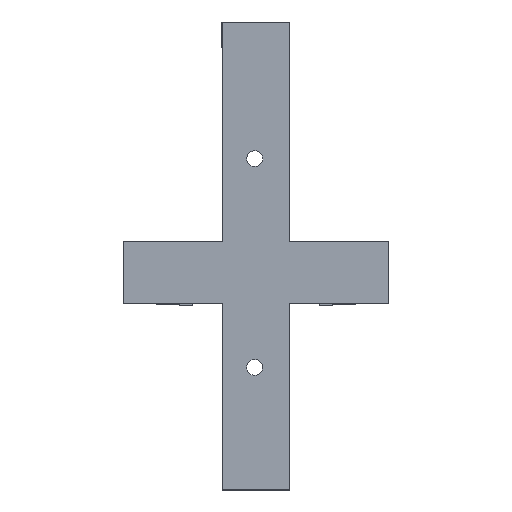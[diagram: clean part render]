
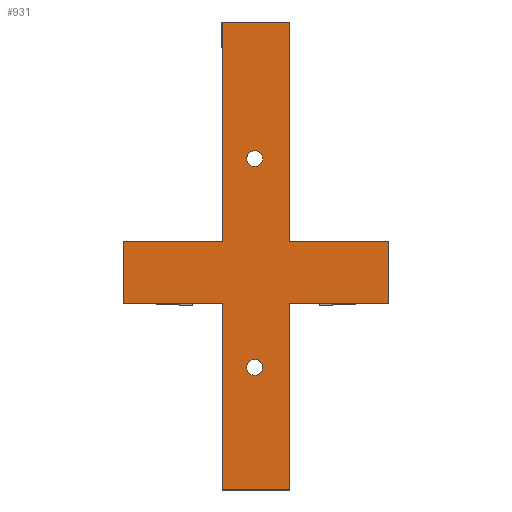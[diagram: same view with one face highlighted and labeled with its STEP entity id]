
A CAD part, top view. The second image highlights one B-rep face of the part: STEP entity #931.
In plain terms, the highlighted planar face has unit normal (0, 0, 1).
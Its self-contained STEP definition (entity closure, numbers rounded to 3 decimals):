
#39=FACE_BOUND('',#141,.T.);
#40=FACE_BOUND('',#142,.T.);
#84=FACE_OUTER_BOUND('',#140,.T.);
#140=EDGE_LOOP('',(#812,#813,#814,#815,#816,#817,#818,#819,#820,#821,#822,
#823));
#141=EDGE_LOOP('',(#824));
#142=EDGE_LOOP('',(#825));
#160=CIRCLE('',#980,3.175);
#162=CIRCLE('',#983,3.175);
#198=LINE('',#1384,#307);
#208=LINE('',#1402,#317);
#209=LINE('',#1404,#318);
#213=LINE('',#1411,#322);
#214=LINE('',#1414,#323);
#238=LINE('',#1462,#347);
#240=LINE('',#1468,#349);
#243=LINE('',#1472,#352);
#244=LINE('',#1475,#353);
#251=LINE('',#1488,#360);
#257=LINE('',#1501,#366);
#266=LINE('',#1518,#375);
#307=VECTOR('',#1132,10.);
#317=VECTOR('',#1144,10.);
#318=VECTOR('',#1147,10.);
#322=VECTOR('',#1153,10.);
#323=VECTOR('',#1156,10.);
#347=VECTOR('',#1194,10.);
#349=VECTOR('',#1198,10.);
#352=VECTOR('',#1203,10.);
#353=VECTOR('',#1206,10.);
#360=VECTOR('',#1215,10.);
#366=VECTOR('',#1229,10.);
#375=VECTOR('',#1250,10.);
#414=VERTEX_POINT('',#1363);
#416=VERTEX_POINT('',#1369);
#419=VERTEX_POINT('',#1380);
#421=VERTEX_POINT('',#1383);
#425=VERTEX_POINT('',#1393);
#428=VERTEX_POINT('',#1400);
#430=VERTEX_POINT('',#1409);
#431=VERTEX_POINT('',#1413);
#447=VERTEX_POINT('',#1457);
#448=VERTEX_POINT('',#1460);
#449=VERTEX_POINT('',#1464);
#451=VERTEX_POINT('',#1467);
#452=VERTEX_POINT('',#1474);
#457=VERTEX_POINT('',#1486);
#507=EDGE_CURVE('',#414,#414,#160,.T.);
#510=EDGE_CURVE('',#416,#416,#162,.T.);
#516=EDGE_CURVE('',#419,#421,#198,.T.);
#526=EDGE_CURVE('',#425,#428,#208,.T.);
#527=EDGE_CURVE('',#428,#421,#209,.T.);
#531=EDGE_CURVE('',#419,#430,#213,.T.);
#532=EDGE_CURVE('',#431,#425,#214,.T.);
#556=EDGE_CURVE('',#447,#448,#238,.T.);
#558=EDGE_CURVE('',#449,#451,#240,.T.);
#561=EDGE_CURVE('',#451,#448,#243,.T.);
#562=EDGE_CURVE('',#452,#447,#244,.T.);
#569=EDGE_CURVE('',#449,#457,#251,.T.);
#576=EDGE_CURVE('',#457,#431,#257,.T.);
#585=EDGE_CURVE('',#430,#452,#266,.T.);
#812=ORIENTED_EDGE('',*,*,#576,.T.);
#813=ORIENTED_EDGE('',*,*,#532,.T.);
#814=ORIENTED_EDGE('',*,*,#526,.T.);
#815=ORIENTED_EDGE('',*,*,#527,.T.);
#816=ORIENTED_EDGE('',*,*,#516,.F.);
#817=ORIENTED_EDGE('',*,*,#531,.T.);
#818=ORIENTED_EDGE('',*,*,#585,.T.);
#819=ORIENTED_EDGE('',*,*,#562,.T.);
#820=ORIENTED_EDGE('',*,*,#556,.T.);
#821=ORIENTED_EDGE('',*,*,#561,.F.);
#822=ORIENTED_EDGE('',*,*,#558,.F.);
#823=ORIENTED_EDGE('',*,*,#569,.T.);
#824=ORIENTED_EDGE('',*,*,#507,.T.);
#825=ORIENTED_EDGE('',*,*,#510,.T.);
#882=PLANE('',#1014);
#931=ADVANCED_FACE('',(#84,#39,#40),#882,.T.);
#980=AXIS2_PLACEMENT_3D('',#1364,#1110,#1111);
#983=AXIS2_PLACEMENT_3D('',#1370,#1117,#1118);
#1014=AXIS2_PLACEMENT_3D('',#1519,#1251,#1252);
#1110=DIRECTION('center_axis',(0.,0.,-1.));
#1111=DIRECTION('ref_axis',(-1.,0.,0.));
#1117=DIRECTION('center_axis',(0.,0.,-1.));
#1118=DIRECTION('ref_axis',(-1.,0.,0.));
#1132=DIRECTION('',(-1.,0.,0.));
#1144=DIRECTION('',(-1.,0.,0.));
#1147=DIRECTION('',(0.,-1.,0.));
#1153=DIRECTION('',(0.,-1.,0.));
#1156=DIRECTION('',(0.,-1.,0.));
#1194=DIRECTION('',(1.,0.,0.));
#1198=DIRECTION('',(1.,0.,0.));
#1203=DIRECTION('',(0.,-1.,0.));
#1206=DIRECTION('',(0.,1.,0.));
#1215=DIRECTION('',(0.,1.,0.));
#1229=DIRECTION('',(-1.,0.,0.));
#1250=DIRECTION('',(1.,0.,0.));
#1251=DIRECTION('center_axis',(0.,0.,1.));
#1252=DIRECTION('ref_axis',(1.,0.,0.));
#1363=CARTESIAN_POINT('',(46.42,133.34,52.01));
#1364=CARTESIAN_POINT('Origin',(43.245,133.34,52.01));
#1369=CARTESIAN_POINT('',(46.42,49.34,52.01));
#1370=CARTESIAN_POINT('Origin',(43.245,49.34,52.01));
#1380=CARTESIAN_POINT('',(30.249,75.,52.01));
#1383=CARTESIAN_POINT('',(-9.751,75.,52.01));
#1384=CARTESIAN_POINT('',(30.249,75.,52.01));
#1393=CARTESIAN_POINT('',(30.249,100.,52.01));
#1400=CARTESIAN_POINT('',(-9.751,100.,52.01));
#1402=CARTESIAN_POINT('',(30.249,100.,52.01));
#1404=CARTESIAN_POINT('',(-9.751,75.,52.01));
#1409=CARTESIAN_POINT('',(30.249,0.,52.01));
#1411=CARTESIAN_POINT('',(30.249,0.,52.01));
#1413=CARTESIAN_POINT('',(30.249,188.34,52.01));
#1414=CARTESIAN_POINT('',(30.249,0.,52.01));
#1457=CARTESIAN_POINT('',(57.251,75.,52.01));
#1460=CARTESIAN_POINT('',(97.251,75.,52.01));
#1462=CARTESIAN_POINT('',(57.251,75.,52.01));
#1464=CARTESIAN_POINT('',(57.251,100.,52.01));
#1467=CARTESIAN_POINT('',(97.251,100.,52.01));
#1468=CARTESIAN_POINT('',(57.251,100.,52.01));
#1472=CARTESIAN_POINT('',(97.251,75.,52.01));
#1474=CARTESIAN_POINT('',(57.251,0.,52.01));
#1475=CARTESIAN_POINT('',(57.251,188.34,52.01));
#1486=CARTESIAN_POINT('',(57.251,188.34,52.01));
#1488=CARTESIAN_POINT('',(57.251,188.34,52.01));
#1501=CARTESIAN_POINT('',(30.249,188.34,52.01));
#1518=CARTESIAN_POINT('',(57.251,0.,52.01));
#1519=CARTESIAN_POINT('Origin',(43.75,94.17,52.01));
